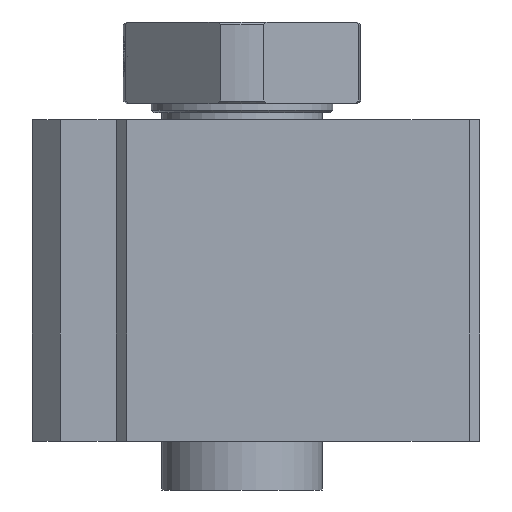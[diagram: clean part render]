
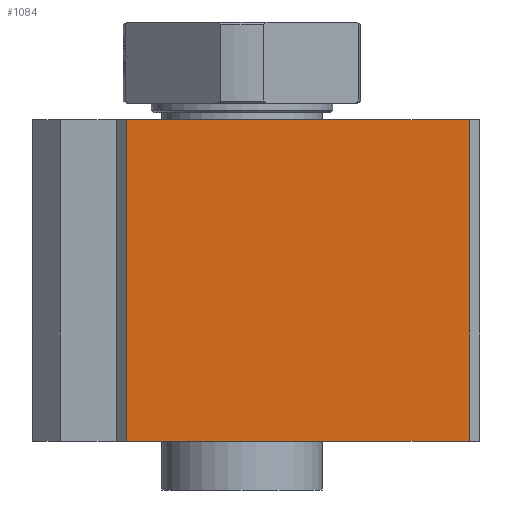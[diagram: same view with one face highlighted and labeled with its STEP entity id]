
A CAD part, left-side view. The second image highlights one B-rep face of the part: STEP entity #1084.
In plain terms, the highlighted planar face has unit normal (-1, 0, 0).
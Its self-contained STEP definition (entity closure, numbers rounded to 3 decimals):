
#70=LINE('',#1643,#146);
#84=LINE('',#1679,#160);
#85=LINE('',#1682,#161);
#86=LINE('',#1683,#162);
#146=VECTOR('',#1322,1000.);
#160=VECTOR('',#1346,1000.);
#161=VECTOR('',#1347,1000.);
#162=VECTOR('',#1348,1000.);
#224=PLANE('',#1197);
#281=ORIENTED_EDGE('',*,*,#565,.F.);
#282=ORIENTED_EDGE('',*,*,#566,.F.);
#283=ORIENTED_EDGE('',*,*,#548,.T.);
#284=ORIENTED_EDGE('',*,*,#567,.T.);
#548=EDGE_CURVE('',#690,#691,#70,.T.);
#565=EDGE_CURVE('',#707,#708,#84,.T.);
#566=EDGE_CURVE('',#690,#707,#85,.T.);
#567=EDGE_CURVE('',#691,#708,#86,.T.);
#690=VERTEX_POINT('',#1644);
#691=VERTEX_POINT('',#1645);
#707=VERTEX_POINT('',#1680);
#708=VERTEX_POINT('',#1681);
#848=EDGE_LOOP('',(#281,#282,#283,#284));
#958=FACE_BOUND('',#848,.T.);
#1084=ADVANCED_FACE('',(#958),#224,.T.);
#1197=AXIS2_PLACEMENT_3D('',#1678,#1344,#1345);
#1322=DIRECTION('',(0.,-1.,0.));
#1344=DIRECTION('',(-1.,0.,0.));
#1345=DIRECTION('',(0.,0.,1.));
#1346=DIRECTION('',(0.,-1.,0.));
#1347=DIRECTION('',(0.,0.,1.));
#1348=DIRECTION('',(0.,0.,1.));
#1643=CARTESIAN_POINT('',(-26.,8.25,-23.));
#1644=CARTESIAN_POINT('',(-26.,8.25,-23.));
#1645=CARTESIAN_POINT('',(-26.,-16.25,-23.));
#1678=CARTESIAN_POINT('',(-26.,8.25,-23.));
#1679=CARTESIAN_POINT('',(-26.,8.25,0.));
#1680=CARTESIAN_POINT('',(-26.,8.25,0.));
#1681=CARTESIAN_POINT('',(-26.,-16.25,0.));
#1682=CARTESIAN_POINT('',(-26.,8.25,-23.));
#1683=CARTESIAN_POINT('',(-26.,-16.25,-23.));
